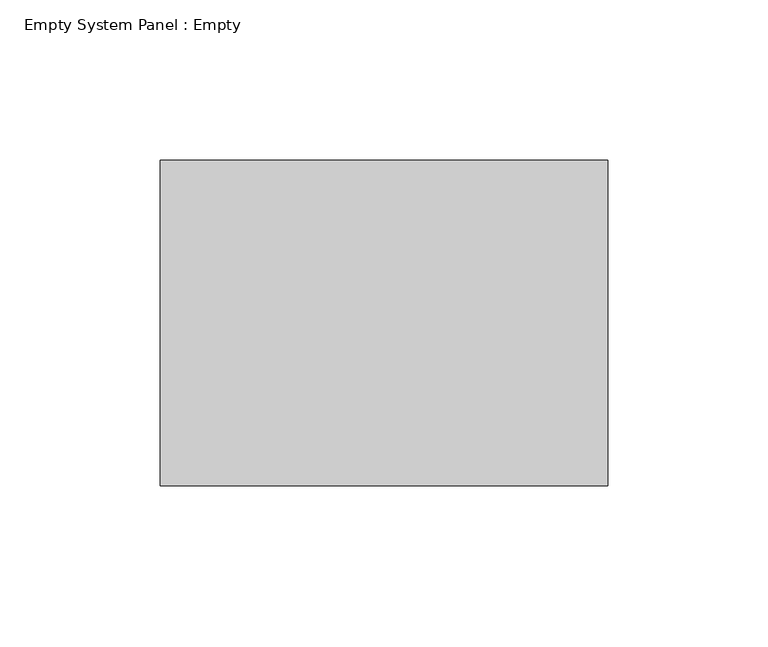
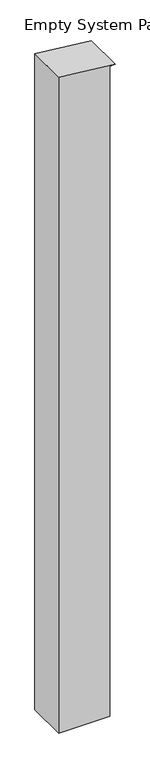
"""IFC4 building model written with IfcOpenShell, lengths in millimetres: plate geometry, Empty System Panel : Empty."""

from ifc_helpers import new_model, si_unit, frame, origin, place, context, project, spatial, polyline, outline, extrude, source, transform, mapped, element, save


def empty_system_panel_empty_205508d5(model_context):
    return source(origin(), model_context, "Body", "SweptSolid", [
        extrude(outline(polyline([(0.0, -69.85), (0.0, 57.15), (1701.5713217, 57.15), (1701.5713217, 69.85), (1717.1965117, -69.85), (0.0, -69.85)])), frame((0.0, -50.8, 0.0), z_axis=(0.0, 1.0, 0.0), x_axis=(0.0, 0.0, 1.0)), (0.0, 0.0, 1.0), 101.6),
    ])


if __name__ == "__main__":
    model = new_model("IFC4")
    model_context = context("Model", 3, world=origin())
    ifc_project = project(units=[si_unit("LENGTHUNIT", "METRE", prefix="MILLI")], contexts=[model_context])
    site = spatial("IfcSite", under=ifc_project)
    building = spatial("IfcBuilding", under=site)
    placement = place(None, origin())
    empty_system_panel_empty_shape = empty_system_panel_empty_205508d5(model_context)
    element("IfcPlate", 1, ObjectType="Empty System Panel : Empty", at=placement, inside=building, context=model_context, shape_type="MappedRepresentation", body=[
        mapped(empty_system_panel_empty_shape, transform((0.0, 0.0, 0.0), x_axis=(1.0, 0.0, 0.0), y_axis=(0.0, 1.0, 0.0), z_axis=(0.0, 0.0, 1.0))),
    ])
    save(model, "model.ifc")
